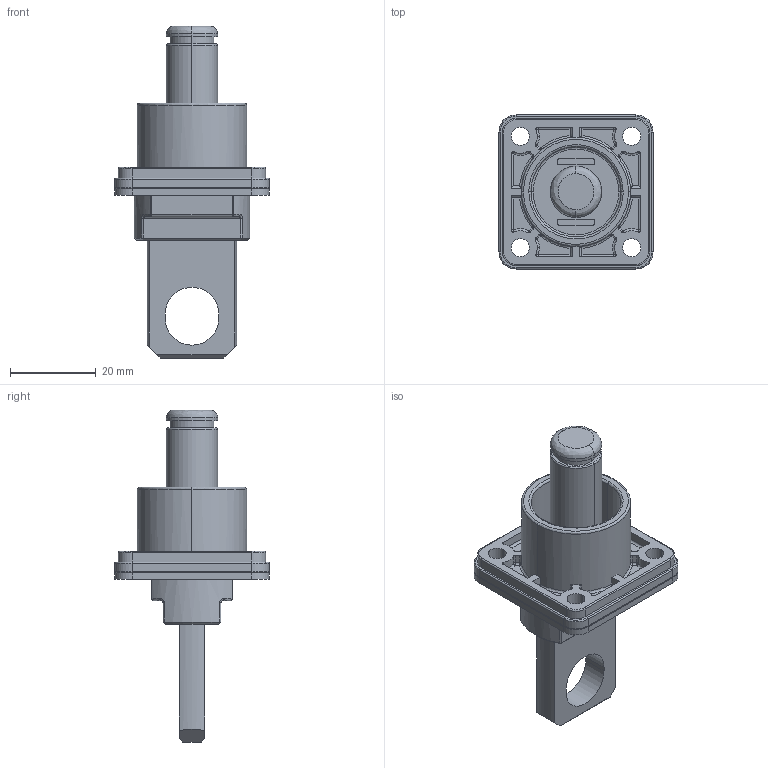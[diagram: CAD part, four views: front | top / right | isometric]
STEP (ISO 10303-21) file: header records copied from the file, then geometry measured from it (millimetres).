
FILE_DESCRIPTION (( 'STEP AP214' ), '1' );
FILE_NAME ('RL9120-20X-F1.STEP', '2017-01-12T01:06:04', ( '' ), ( '' ), 'SwSTEP 2.0', 'SolidWorks 2014', '' );
FILE_SCHEMA (( 'AUTOMOTIVE_DESIGN' ));
Length unit declared in the file: millimetre
Products named in the file (1): RL9120-20X-F1
Bounding box: 36 x 36 x 77.5 mm (x, y, z)
Volume: 19787.2 mm3; surface area: 10131.3 mm2
Topology: 1 solids, 1 shells, 333 faces, 806 edges, 459 vertices
Faces by surface type: cylinder 146, bspline 95, plane 90, cone 2
Entity records: 11546 total; most frequent: CARTESIAN_POINT 4036, ORIENTED_EDGE 1548, DIRECTION 1494, EDGE_CURVE 774, AXIS2_PLACEMENT_3D 579, VERTEX_POINT 459, EDGE_LOOP 359, CIRCLE 340
